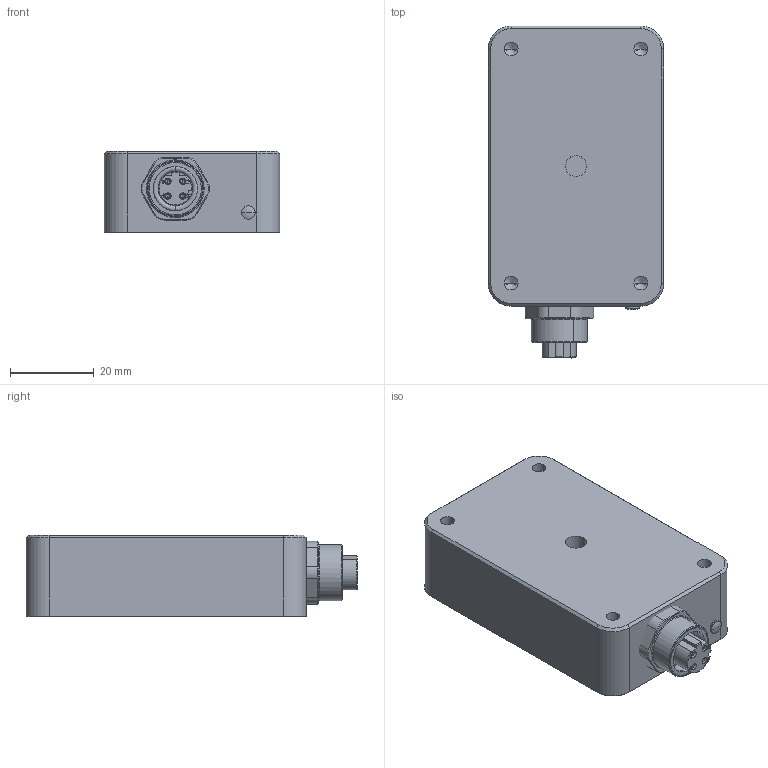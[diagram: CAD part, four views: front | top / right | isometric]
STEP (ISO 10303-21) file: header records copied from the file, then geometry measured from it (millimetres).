
FILE_DESCRIPTION((''),'2;1');
FILE_NAME('ASSY_COMPLETE_REV4_ASM','2026-03-27T',('Administrator'),(''),'PRO/ENGINEER BY PARAMETRIC TECHNOLOGY CORPORATION, 2010480','PRO/ENGINEER BY PARAMETRIC TECHNOLOGY CORPORATION, 2010480','');
FILE_SCHEMA(('CONFIG_CONTROL_DESIGN'));
Length unit declared in the file: millimetre
Products named in the file (5): BLOCK_REV4; CONNECTOR; LID_2S; LIGHT_GUIDE_EMP2; ASSY_COMPLETE_REV4_ASM
Assembly tree (4 placements, depth 2):
  ASSY_COMPLETE_REV4_ASM
    BLOCK_REV4
    CONNECTOR
    LID_2S
    LIGHT_GUIDE_EMP2
Bounding box: 42 x 79.4 x 19.6 mm (x, y, z)
Volume: 54499.7 mm3; surface area: 17992.2 mm2
Topology: 4 solids, 6 shells, 436 faces, 1156 edges, 745 vertices
Faces by surface type: plane 253, cylinder 96, cone 72, torus 11, sphere 4
Entity records: 13679 total; most frequent: CARTESIAN_POINT 2592, DIRECTION 2328, ORIENTED_EDGE 2272, EDGE_CURVE 1136, AXIS2_PLACEMENT_3D 789, VECTOR 750, LINE 750, VERTEX_POINT 745
